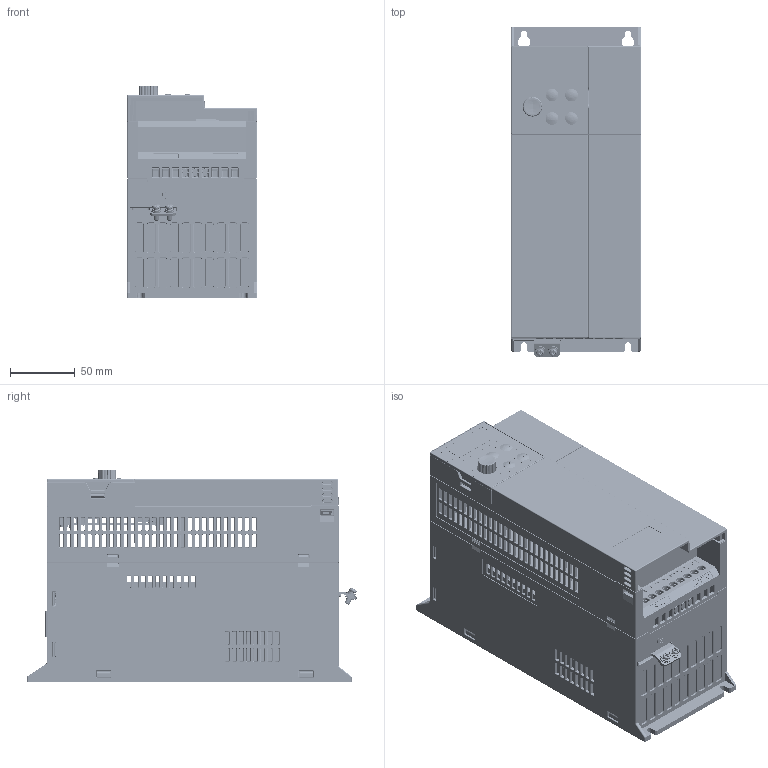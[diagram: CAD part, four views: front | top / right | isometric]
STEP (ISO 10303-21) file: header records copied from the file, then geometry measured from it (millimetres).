
FILE_DESCRIPTION((''),'2;1');
FILE_NAME('AD80-S2-DRIVE_ASM','2022-03-02T14:08:45',('wendong.luo'),(''),'CREO PARAMETRIC BY PTC INC, 2018100','CREO PARAMETRIC BY PTC INC, 2018100','');
FILE_SCHEMA(('CONFIG_CONTROL_DESIGN','GEOMETRIC_VALIDATION_PROPERTIES_MIM'));
Products named in the file (24): M0104105; M0100006; M0100005_BEND; M0202003; FAN8025; M0104108; M0104106; E0100292; E0400085; E0400084; E0400074; E0400035; E0400088; E0400086; E0400127; M0203054; E0100292_ASM; AD80-S2-FRONT-COVER-ASSY_ASM; M0104107; AD80-S2-PU_ASM; AD80-LCP-MECHANICAL_PART; AD80-LCP-FOIL; AD80-D0-LCP_ASM; AD80-S2-DRIVE_ASM
Assembly tree (29 placements, depth 5):
  AD80-S2-DRIVE_ASM
    AD80-S2-PU_ASM
      M0104105
      M0100006
      M0100005_BEND
      M0202003  x2
      FAN8025
      M0104108
      AD80-S2-FRONT-COVER-ASSY_ASM
        M0104106
        E0100292_ASM
          E0100292
          E0400085  x3
          E0400084  x2
          E0400074
          E0400035
          E0400088
          E0400086  x3
          E0400127
          M0203054
      M0104107
    AD80-D0-LCP_ASM
      AD80-LCP-MECHANICAL_PART
      AD80-LCP-FOIL
Bounding box: 100 x 254.08 x 164 mm (x, y, z)
Volume: 1760908.9 mm3; surface area: 485239.7 mm2
Topology: 45 solids, 57 shells, 17674 faces, 45996 edges, 28878 vertices
Faces by surface type: plane 8250, cylinder 3996, bspline 2517, extrusion 1109, cone 900, torus 607, sphere 295
Entity records: 816836 total; most frequent: CARTESIAN_POINT 246398, ORIENTED_EDGE 83438, DIRECTION 66397, PRESENTATION_STYLE_ASSIGNMENT 48627, STYLED_ITEM 48106, EDGE_CURVE 41737, CURVE_STYLE 36986, VERTEX_POINT 26115
